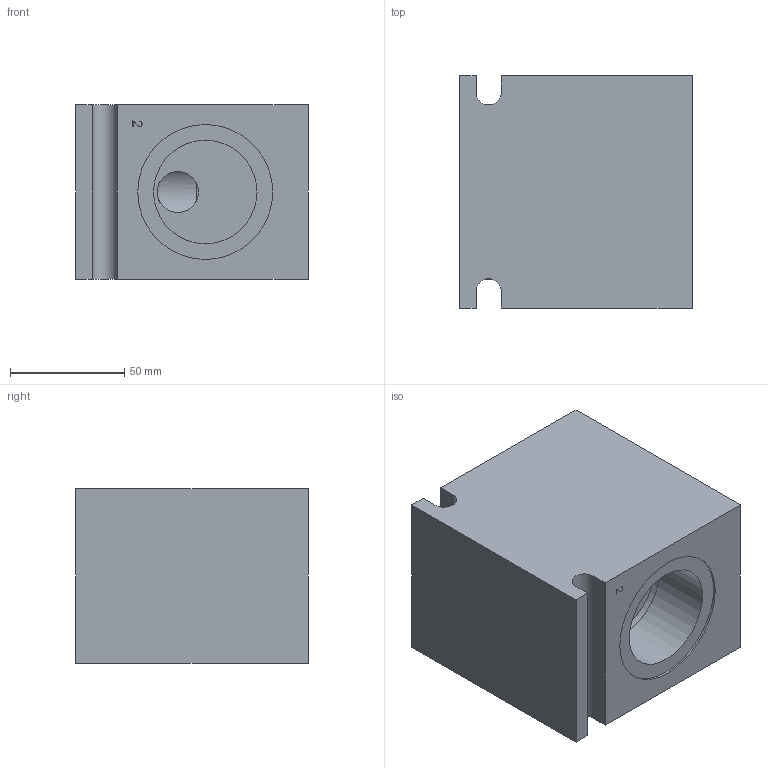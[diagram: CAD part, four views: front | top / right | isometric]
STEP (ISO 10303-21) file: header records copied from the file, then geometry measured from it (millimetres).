
FILE_DESCRIPTION( ( 'Unknown' ), '1' );
FILE_NAME( 'G:/Graphic Design/Graphic Design 2/Data Sheets/Delta Bodies/DRAWINGS/B-DSJF2L.stp', 'Unknown', ( 'Unknown' ), ( 'Unknown' ), 'PSStep 16.0.42', 'Unknown', ' ' );
FILE_SCHEMA( ( 'AUTOMOTIVE_DESIGN { 1 0 10303 214 1 1 1 1 }' ) );
Length unit declared in the file: millimetre
Products named in the file (2): Assem1; B-DSJF2L
Assembly tree (1 placements, depth 2):
  Assem1
    B-DSJF2L
Bounding box: 101.6 x 101.6 x 76.2 mm (x, y, z)
Surface area: 68916.9 mm2 (no closed solid volume)
Topology: 0 solids, 78 shells, 78 faces, 380 edges, 361 vertices
Faces by surface type: plane 57, cylinder 15, cone 5, torus 1
Full cylindrical faces by diameter (mm): 18 x2, 26 x1, 28.651 x1, 31.806 x2, 45.25 x4, 48.514 x1, 59.02 x2
Entity records: 4484 total; most frequent: CARTESIAN_POINT 1345, DIRECTION 414, VERTEX_POINT 355, ORIENTED_EDGE 354, EDGE_CURVE 354, B_SPLINE_CURVE_WITH_KNOTS 158, AXIS2_PLACEMENT_3D 138, LINE 138
